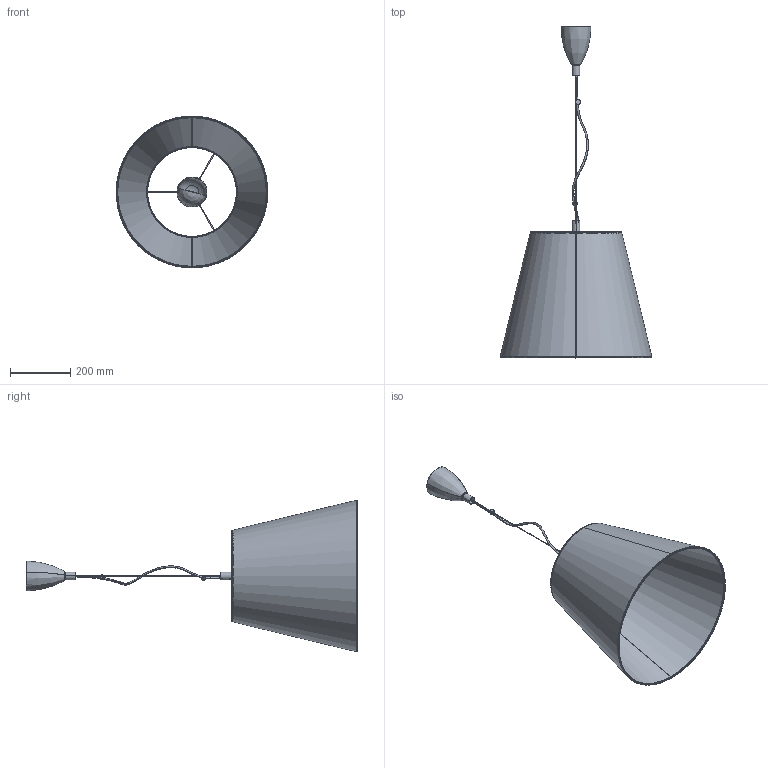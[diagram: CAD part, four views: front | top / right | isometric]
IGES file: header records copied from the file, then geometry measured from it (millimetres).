
Start section: SolidWorks IGES file using analytic representation for surfaces
Global section: file name: E:\3D lampy\Malawi\Malawi M\Malawi_4703,6862.IGS; native system: SolidWorks 2016; preprocessor: SolidWorks 2016; author: Asia; date: 170621.104709; units: millimetre
Bounding box: 504.98 x 1105.16 x 505.11 mm (x, y, z)
Surface area: 1320121.8 mm2 (no closed solid volume)
Topology: 0 solids, 0 shells, 395 faces, 7050 edges, 7042 vertices
Faces by surface type: bspline 237, revolution 158
